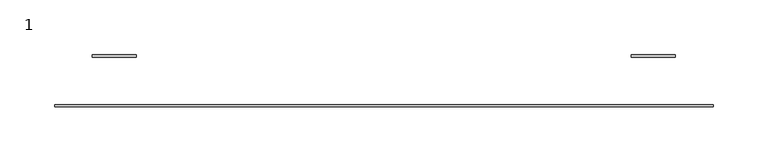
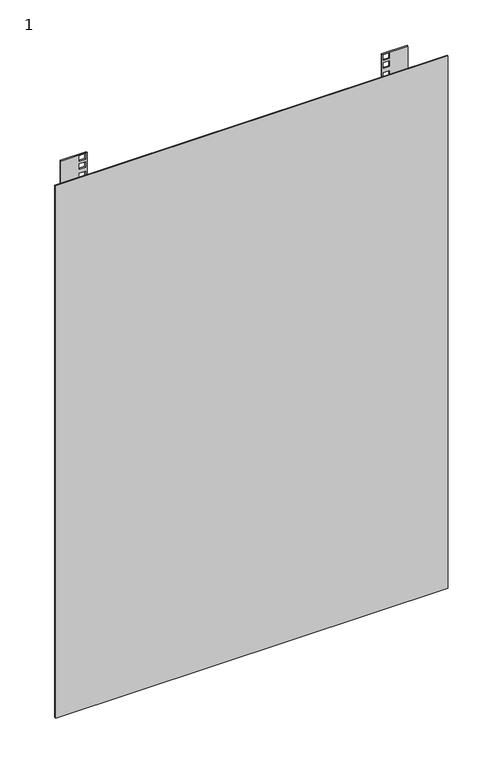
"""IFC4 building model written with IfcOpenShell, lengths in millimetres: proxy geometry, 1 : 18U 450мм металлическая дверь."""

from ifc_helpers import new_model, si_unit, frame, origin, place, context, project, spatial, polyline, outline, extrude, source, transform, mapped, element, save


def proxy_1_53d06270(model_context):
    return source(origin(), model_context, "Body", "SweptSolid", [
        extrude(outline(polyline([(900.4675, 265.3), (900.4675, 225.3), (20.4675, 225.3), (20.4675, 265.3), (900.4675, 265.3)]), holes=[polyline([(55.0175, 227.55), (55.0175, 237.05), (46.0675, 237.05), (46.0675, 227.55), (55.0175, 227.55)]), polyline([(70.6675, 227.55), (70.6675, 237.05), (61.7175, 237.05), (61.7175, 227.55), (70.6675, 227.55)]), polyline([(86.3175, 227.55), (86.3175, 237.05), (77.3675, 237.05), (77.3675, 227.55), (86.3175, 227.55)]), polyline([(99.4675, 237.05), (90.5175, 237.05), (90.5175, 227.55), (99.4675, 227.55), (99.4675, 237.05)]), polyline([(115.1175, 237.05), (106.1675, 237.05), (106.1675, 227.55), (115.1175, 227.55), (115.1175, 237.05)]), polyline([(130.7675, 237.05), (121.8175, 237.05), (121.8175, 227.55), (130.7675, 227.55), (130.7675, 237.05)]), polyline([(143.9175, 237.05), (134.9675, 237.05), (134.9675, 227.55), (143.9175, 227.55), (143.9175, 237.05)]), polyline([(159.5675, 237.05), (150.6175, 237.05), (150.6175, 227.55), (159.5675, 227.55), (159.5675, 237.05)]), polyline([(175.2175, 237.05), (166.2675, 237.05), (166.2675, 227.55), (175.2175, 227.55), (175.2175, 237.05)]), polyline([(188.3675, 237.05), (179.4175, 237.05), (179.4175, 227.55), (188.3675, 227.55), (188.3675, 237.05)]), polyline([(204.0175, 237.05), (195.0675, 237.05), (195.0675, 227.55), (204.0175, 227.55), (204.0175, 237.05)]), polyline([(219.6675, 237.05), (210.7175, 237.05), (210.7175, 227.55), (219.6675, 227.55), (219.6675, 237.05)]), polyline([(232.8175, 237.05), (223.8675, 237.05), (223.8675, 227.55), (232.8175, 227.55), (232.8175, 237.05)]), polyline([(248.4675, 237.05), (239.5175, 237.05), (239.5175, 227.55), (248.4675, 227.55), (248.4675, 237.05)]), polyline([(264.1175, 237.05), (255.1675, 237.05), (255.1675, 227.55), (264.1175, 227.55), (264.1175, 237.05)]), polyline([(277.2675, 237.05), (268.3175, 237.05), (268.3175, 227.55), (277.2675, 227.55), (277.2675, 237.05)]), polyline([(292.9175, 237.05), (283.9675, 237.05), (283.9675, 227.55), (292.9175, 227.55), (292.9175, 237.05)]), polyline([(308.5675, 237.05), (299.6175, 237.05), (299.6175, 227.55), (308.5675, 227.55), (308.5675, 237.05)]), polyline([(321.7175, 237.05), (312.7675, 237.05), (312.7675, 227.55), (321.7175, 227.55), (321.7175, 237.05)]), polyline([(337.3675, 237.05), (328.4175, 237.05), (328.4175, 227.55), (337.3675, 227.55), (337.3675, 237.05)]), polyline([(353.0175, 237.05), (344.0675, 237.05), (344.0675, 227.55), (353.0175, 227.55), (353.0175, 237.05)]), polyline([(366.1675, 237.05), (357.2175, 237.05), (357.2175, 227.55), (366.1675, 227.55), (366.1675, 237.05)]), polyline([(381.8175, 237.05), (372.8675, 237.05), (372.8675, 227.55), (381.8175, 227.55), (381.8175, 237.05)]), polyline([(397.4675, 237.05), (388.5175, 237.05), (388.5175, 227.55), (397.4675, 227.55), (397.4675, 237.05)]), polyline([(410.6175, 237.05), (401.6675, 237.05), (401.6675, 227.55), (410.6175, 227.55), (410.6175, 237.05)]), polyline([(426.2675, 237.05), (417.3175, 237.05), (417.3175, 227.55), (426.2675, 227.55), (426.2675, 237.05)]), polyline([(441.9175, 237.05), (432.9675, 237.05), (432.9675, 227.55), (441.9175, 227.55), (441.9175, 237.05)]), polyline([(455.0675, 237.05), (446.1175, 237.05), (446.1175, 227.55), (455.0675, 227.55), (455.0675, 237.05)]), polyline([(470.7175, 237.05), (461.7675, 237.05), (461.7675, 227.55), (470.7175, 227.55), (470.7175, 237.05)]), polyline([(486.3675, 237.05), (477.4175, 237.05), (477.4175, 227.55), (486.3675, 227.55), (486.3675, 237.05)]), polyline([(499.5175, 237.05), (490.5675, 237.05), (490.5675, 227.55), (499.5175, 227.55), (499.5175, 237.05)]), polyline([(515.1675, 237.05), (506.2175, 237.05), (506.2175, 227.55), (515.1675, 227.55), (515.1675, 237.05)]), polyline([(530.8175, 237.05), (521.8675, 237.05), (521.8675, 227.55), (530.8175, 227.55), (530.8175, 237.05)]), polyline([(543.9675, 237.05), (535.0175, 237.05), (535.0175, 227.55), (543.9675, 227.55), (543.9675, 237.05)]), polyline([(559.6175, 237.05), (550.6675, 237.05), (550.6675, 227.55), (559.6175, 227.55), (559.6175, 237.05)]), polyline([(575.2675, 237.05), (566.3175, 237.05), (566.3175, 227.55), (575.2675, 227.55), (575.2675, 237.05)]), polyline([(588.4175, 237.05), (579.4675, 237.05), (579.4675, 227.55), (588.4175, 227.55), (588.4175, 237.05)]), polyline([(604.0675, 237.05), (595.1175, 237.05), (595.1175, 227.55), (604.0675, 227.55), (604.0675, 237.05)]), polyline([(619.7175, 237.05), (610.7675, 237.05), (610.7675, 227.55), (619.7175, 227.55), (619.7175, 237.05)]), polyline([(632.8675, 237.05), (623.9175, 237.05), (623.9175, 227.55), (632.8675, 227.55), (632.8675, 237.05)]), polyline([(648.5175, 237.05), (639.5675, 237.05), (639.5675, 227.55), (648.5175, 227.55), (648.5175, 237.05)]), polyline([(664.1675, 237.05), (655.2175, 237.05), (655.2175, 227.55), (664.1675, 227.55), (664.1675, 237.05)]), polyline([(677.3175, 237.05), (668.3675, 237.05), (668.3675, 227.55), (677.3175, 227.55), (677.3175, 237.05)]), polyline([(692.9675, 237.05), (684.0175, 237.05), (684.0175, 227.55), (692.9675, 227.55), (692.9675, 237.05)]), polyline([(708.6175, 237.05), (699.6675, 237.05), (699.6675, 227.55), (708.6175, 227.55), (708.6175, 237.05)]), polyline([(721.7675, 237.05), (712.8175, 237.05), (712.8175, 227.55), (721.7675, 227.55), (721.7675, 237.05)]), polyline([(737.4175, 237.05), (728.4675, 237.05), (728.4675, 227.55), (737.4175, 227.55), (737.4175, 237.05)]), polyline([(753.0675, 237.05), (744.1175, 237.05), (744.1175, 227.55), (753.0675, 227.55), (753.0675, 237.05)]), polyline([(766.2175, 237.05), (757.2675, 237.05), (757.2675, 227.55), (766.2175, 227.55), (766.2175, 237.05)]), polyline([(781.8675, 237.05), (772.9175, 237.05), (772.9175, 227.55), (781.8675, 227.55), (781.8675, 237.05)]), polyline([(797.5175, 237.05), (788.5675, 237.05), (788.5675, 227.55), (797.5175, 227.55), (797.5175, 237.05)]), polyline([(810.6675, 237.05), (801.7175, 237.05), (801.7175, 227.55), (810.6675, 227.55), (810.6675, 237.05)]), polyline([(826.3175, 237.05), (817.3675, 237.05), (817.3675, 227.55), (826.3175, 227.55), (826.3175, 237.05)]), polyline([(841.9675, 237.05), (833.0175, 237.05), (833.0175, 227.55), (841.9675, 227.55), (841.9675, 237.05)]), polyline([(855.1175, 237.05), (846.1675, 237.05), (846.1675, 227.55), (855.1175, 227.55), (855.1175, 237.05)]), polyline([(870.7675, 237.05), (861.8175, 237.05), (861.8175, 227.55), (870.7675, 227.55), (870.7675, 237.05)]), polyline([(886.4175, 237.05), (877.4675, 237.05), (877.4675, 227.55), (886.4175, 227.55), (886.4175, 237.05)]), polyline([(899.5675, 237.05), (890.6175, 237.05), (890.6175, 227.55), (899.5675, 227.55), (899.5675, 237.05)])]), frame((0.0, -179.6777479, 0.0), z_axis=(0.0, 1.0, 0.0), x_axis=(0.0, 0.0, 1.0)), (0.0, 0.0, 1.0), 2.0),
        extrude(outline(polyline([(900.4675, -225.7), (900.4675, -265.7), (20.4675, -265.7), (20.4675, -225.7), (900.4675, -225.7)]), holes=[polyline([(55.0175, -237.45), (55.0175, -227.95), (46.0675, -227.95), (46.0675, -237.45), (55.0175, -237.45)]), polyline([(70.6675, -237.45), (70.6675, -227.95), (61.7175, -227.95), (61.7175, -237.45), (70.6675, -237.45)]), polyline([(86.3175, -237.45), (86.3175, -227.95), (77.3675, -227.95), (77.3675, -237.45), (86.3175, -237.45)]), polyline([(90.5175, -237.45), (99.4675, -237.45), (99.4675, -227.95), (90.5175, -227.95), (90.5175, -237.45)]), polyline([(106.1675, -237.45), (115.1175, -237.45), (115.1175, -227.95), (106.1675, -227.95), (106.1675, -237.45)]), polyline([(121.8175, -237.45), (130.7675, -237.45), (130.7675, -227.95), (121.8175, -227.95), (121.8175, -237.45)]), polyline([(134.9675, -237.45), (143.9175, -237.45), (143.9175, -227.95), (134.9675, -227.95), (134.9675, -237.45)]), polyline([(150.6175, -237.45), (159.5675, -237.45), (159.5675, -227.95), (150.6175, -227.95), (150.6175, -237.45)]), polyline([(166.2675, -237.45), (175.2175, -237.45), (175.2175, -227.95), (166.2675, -227.95), (166.2675, -237.45)]), polyline([(179.4175, -237.45), (188.3675, -237.45), (188.3675, -227.95), (179.4175, -227.95), (179.4175, -237.45)]), polyline([(195.0675, -237.45), (204.0175, -237.45), (204.0175, -227.95), (195.0675, -227.95), (195.0675, -237.45)]), polyline([(210.7175, -237.45), (219.6675, -237.45), (219.6675, -227.95), (210.7175, -227.95), (210.7175, -237.45)]), polyline([(223.8675, -237.45), (232.8175, -237.45), (232.8175, -227.95), (223.8675, -227.95), (223.8675, -237.45)]), polyline([(239.5175, -237.45), (248.4675, -237.45), (248.4675, -227.95), (239.5175, -227.95), (239.5175, -237.45)]), polyline([(255.1675, -237.45), (264.1175, -237.45), (264.1175, -227.95), (255.1675, -227.95), (255.1675, -237.45)]), polyline([(268.3175, -237.45), (277.2675, -237.45), (277.2675, -227.95), (268.3175, -227.95), (268.3175, -237.45)]), polyline([(283.9675, -237.45), (292.9175, -237.45), (292.9175, -227.95), (283.9675, -227.95), (283.9675, -237.45)]), polyline([(299.6175, -237.45), (308.5675, -237.45), (308.5675, -227.95), (299.6175, -227.95), (299.6175, -237.45)]), polyline([(312.7675, -237.45), (321.7175, -237.45), (321.7175, -227.95), (312.7675, -227.95), (312.7675, -237.45)]), polyline([(328.4175, -237.45), (337.3675, -237.45), (337.3675, -227.95), (328.4175, -227.95), (328.4175, -237.45)]), polyline([(344.0675, -237.45), (353.0175, -237.45), (353.0175, -227.95), (344.0675, -227.95), (344.0675, -237.45)]), polyline([(357.2175, -237.45), (366.1675, -237.45), (366.1675, -227.95), (357.2175, -227.95), (357.2175, -237.45)]), polyline([(372.8675, -237.45), (381.8175, -237.45), (381.8175, -227.95), (372.8675, -227.95), (372.8675, -237.45)]), polyline([(388.5175, -237.45), (397.4675, -237.45), (397.4675, -227.95), (388.5175, -227.95), (388.5175, -237.45)]), polyline([(401.6675, -237.45), (410.6175, -237.45), (410.6175, -227.95), (401.6675, -227.95), (401.6675, -237.45)]), polyline([(417.3175, -237.45), (426.2675, -237.45), (426.2675, -227.95), (417.3175, -227.95), (417.3175, -237.45)]), polyline([(432.9675, -237.45), (441.9175, -237.45), (441.9175, -227.95), (432.9675, -227.95), (432.9675, -237.45)]), polyline([(446.1175, -237.45), (455.0675, -237.45), (455.0675, -227.95), (446.1175, -227.95), (446.1175, -237.45)]), polyline([(461.7675, -237.45), (470.7175, -237.45), (470.7175, -227.95), (461.7675, -227.95), (461.7675, -237.45)]), polyline([(477.4175, -237.45), (486.3675, -237.45), (486.3675, -227.95), (477.4175, -227.95), (477.4175, -237.45)]), polyline([(490.5675, -237.45), (499.5175, -237.45), (499.5175, -227.95), (490.5675, -227.95), (490.5675, -237.45)]), polyline([(506.2175, -237.45), (515.1675, -237.45), (515.1675, -227.95), (506.2175, -227.95), (506.2175, -237.45)]), polyline([(521.8675, -237.45), (530.8175, -237.45), (530.8175, -227.95), (521.8675, -227.95), (521.8675, -237.45)]), polyline([(535.0175, -237.45), (543.9675, -237.45), (543.9675, -227.95), (535.0175, -227.95), (535.0175, -237.45)]), polyline([(550.6675, -237.45), (559.6175, -237.45), (559.6175, -227.95), (550.6675, -227.95), (550.6675, -237.45)]), polyline([(566.3175, -237.45), (575.2675, -237.45), (575.2675, -227.95), (566.3175, -227.95), (566.3175, -237.45)]), polyline([(579.4675, -237.45), (588.4175, -237.45), (588.4175, -227.95), (579.4675, -227.95), (579.4675, -237.45)]), polyline([(595.1175, -237.45), (604.0675, -237.45), (604.0675, -227.95), (595.1175, -227.95), (595.1175, -237.45)]), polyline([(610.7675, -237.45), (619.7175, -237.45), (619.7175, -227.95), (610.7675, -227.95), (610.7675, -237.45)]), polyline([(623.9175, -237.45), (632.8675, -237.45), (632.8675, -227.95), (623.9175, -227.95), (623.9175, -237.45)]), polyline([(639.5675, -237.45), (648.5175, -237.45), (648.5175, -227.95), (639.5675, -227.95), (639.5675, -237.45)]), polyline([(655.2175, -237.45), (664.1675, -237.45), (664.1675, -227.95), (655.2175, -227.95), (655.2175, -237.45)]), polyline([(668.3675, -237.45), (677.3175, -237.45), (677.3175, -227.95), (668.3675, -227.95), (668.3675, -237.45)]), polyline([(684.0175, -237.45), (692.9675, -237.45), (692.9675, -227.95), (684.0175, -227.95), (684.0175, -237.45)]), polyline([(699.6675, -237.45), (708.6175, -237.45), (708.6175, -227.95), (699.6675, -227.95), (699.6675, -237.45)]), polyline([(712.8175, -237.45), (721.7675, -237.45), (721.7675, -227.95), (712.8175, -227.95), (712.8175, -237.45)]), polyline([(728.4675, -237.45), (737.4175, -237.45), (737.4175, -227.95), (728.4675, -227.95), (728.4675, -237.45)]), polyline([(744.1175, -237.45), (753.0675, -237.45), (753.0675, -227.95), (744.1175, -227.95), (744.1175, -237.45)]), polyline([(757.2675, -237.45), (766.2175, -237.45), (766.2175, -227.95), (757.2675, -227.95), (757.2675, -237.45)]), polyline([(772.9175, -237.45), (781.8675, -237.45), (781.8675, -227.95), (772.9175, -227.95), (772.9175, -237.45)]), polyline([(788.5675, -237.45), (797.5175, -237.45), (797.5175, -227.95), (788.5675, -227.95), (788.5675, -237.45)]), polyline([(801.7175, -237.45), (810.6675, -237.45), (810.6675, -227.95), (801.7175, -227.95), (801.7175, -237.45)]), polyline([(817.3675, -237.45), (826.3175, -237.45), (826.3175, -227.95), (817.3675, -227.95), (817.3675, -237.45)]), polyline([(833.0175, -237.45), (841.9675, -237.45), (841.9675, -227.95), (833.0175, -227.95), (833.0175, -237.45)]), polyline([(846.1675, -237.45), (855.1175, -237.45), (855.1175, -227.95), (846.1675, -227.95), (846.1675, -237.45)]), polyline([(861.8175, -237.45), (870.7675, -237.45), (870.7675, -227.95), (861.8175, -227.95), (861.8175, -237.45)]), polyline([(877.4675, -237.45), (886.4175, -237.45), (886.4175, -227.95), (877.4675, -227.95), (877.4675, -237.45)]), polyline([(890.6175, -237.45), (899.5675, -237.45), (899.5675, -227.95), (890.6175, -227.95), (890.6175, -237.45)])]), frame((0.0, -179.6777479, 0.0), z_axis=(0.0, 1.0, 0.0), x_axis=(0.0, 0.0, 1.0)), (0.0, 0.0, 1.0), 2.0),
        extrude(outline(polyline([(-300.0, -223.0), (300.0, -223.0), (300.0, -225.0), (-300.0, -225.0), (-300.0, -223.0)])), frame((0.0, 0.0, 40.0), z_axis=(0.0, 0.0, 1.0), x_axis=(1.0, 0.0, 0.0)), (0.0, 0.0, 1.0), 860.0),
    ])


if __name__ == "__main__":
    model = new_model("IFC4")
    model_context = context("Model", 3, world=origin())
    ifc_project = project(units=[si_unit("LENGTHUNIT", "METRE", prefix="MILLI")], contexts=[model_context])
    site = spatial("IfcSite", under=ifc_project)
    building = spatial("IfcBuilding", under=site)
    placement = place(None, origin())
    proxy_1_shape = proxy_1_53d06270(model_context)
    element("IfcBuildingElementProxy", 1, Name="1 : 18U 450мм металлическая дверь", ObjectType="1 : 18U 450мм металлическая дверь", at=placement, inside=building, context=model_context, shape_type="MappedRepresentation", body=[
        mapped(proxy_1_shape, transform((0.0, 0.0, 0.0), x_axis=(1.0, 0.0, 0.0), y_axis=(0.0, 1.0, 0.0), z_axis=(0.0, 0.0, 1.0))),
    ])
    save(model, "model.ifc")
